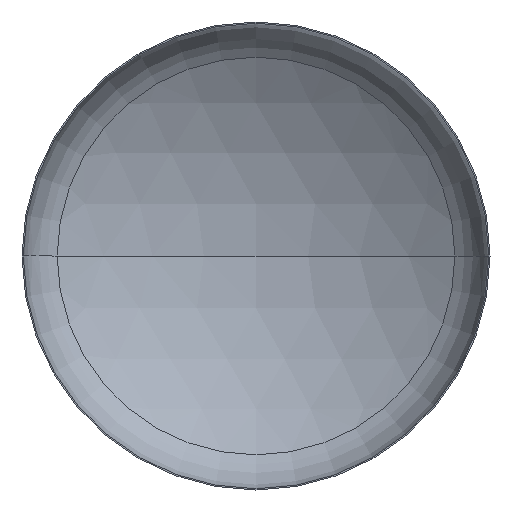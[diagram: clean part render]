
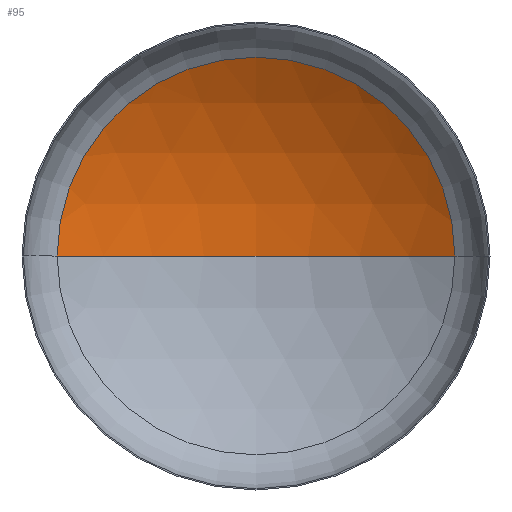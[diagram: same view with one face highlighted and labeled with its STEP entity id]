
A CAD part, front view. The second image highlights one B-rep face of the part: STEP entity #95.
In plain terms, the highlighted spherical face has radius 880 mm.
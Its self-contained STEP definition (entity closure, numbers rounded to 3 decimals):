
#1 = FACE_OUTER_BOUND ( 'NONE', #18, .T. ) ;
#3 = VERTEX_POINT ( 'NONE', #261 ) ;
#18 = EDGE_LOOP ( 'NONE', ( #26, #92, #99 ) ) ;
#26 = ORIENTED_EDGE ( 'NONE', *, *, #228, .F. ) ;
#37 = DIRECTION ( 'NONE',  ( -1., 0., 0. ) ) ;
#73 = VERTEX_POINT ( 'NONE', #247 ) ;
#86 = VERTEX_POINT ( 'NONE', #292 ) ;
#92 = ORIENTED_EDGE ( 'NONE', *, *, #223, .T. ) ;
#95 = ADVANCED_FACE ( 'NONE', ( #1 ), #167, .F. ) ;
#99 = ORIENTED_EDGE ( 'NONE', *, *, #218, .T. ) ;
#108 = DIRECTION ( 'NONE',  ( 0., 0., -1. ) ) ;
#116 = DIRECTION ( 'NONE',  ( 1., 0., 0. ) ) ;
#131 = CIRCLE ( 'NONE', #150, 880. ) ;
#144 = CIRCLE ( 'NONE', #159, 467.268 ) ;
#150 = AXIS2_PLACEMENT_3D ( 'NONE', #395, #283, #221 ) ;
#155 = AXIS2_PLACEMENT_3D ( 'NONE', #376, #108, #37 ) ;
#159 = AXIS2_PLACEMENT_3D ( 'NONE', #199, #299, #116 ) ;
#167 = SPHERICAL_SURFACE ( 'NONE', #193, 880. ) ;
#193 = AXIS2_PLACEMENT_3D ( 'NONE', #253, #240, #249 ) ;
#199 = CARTESIAN_POINT ( 'NONE',  ( 0., 164.055, 0. ) ) ;
#218 = EDGE_CURVE ( 'NONE', #73, #86, #144, .T. ) ;
#221 = DIRECTION ( 'NONE',  ( 1., 0., 0. ) ) ;
#223 = EDGE_CURVE ( 'NONE', #3, #73, #293, .T. ) ;
#228 = EDGE_CURVE ( 'NONE', #3, #86, #131, .T. ) ;
#240 = DIRECTION ( 'NONE',  ( 0., 0., -1. ) ) ;
#247 = CARTESIAN_POINT ( 'NONE',  ( 467.268, 164.055, 0. ) ) ;
#249 = DIRECTION ( 'NONE',  ( -1., 0., 0. ) ) ;
#253 = CARTESIAN_POINT ( 'NONE',  ( 0., -581.64, 0. ) ) ;
#261 = CARTESIAN_POINT ( 'NONE',  ( 0., 298.36, 0. ) ) ;
#283 = DIRECTION ( 'NONE',  ( 0., 0., 1. ) ) ;
#292 = CARTESIAN_POINT ( 'NONE',  ( -467.268, 164.055, 0. ) ) ;
#293 = CIRCLE ( 'NONE', #155, 880. ) ;
#299 = DIRECTION ( 'NONE',  ( 0., -1., 0. ) ) ;
#376 = CARTESIAN_POINT ( 'NONE',  ( 0., -581.64, 0. ) ) ;
#395 = CARTESIAN_POINT ( 'NONE',  ( 0., -581.64, 0. ) ) ;
